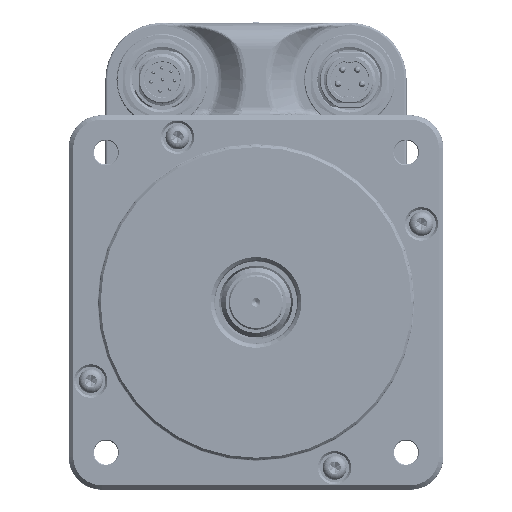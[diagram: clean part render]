
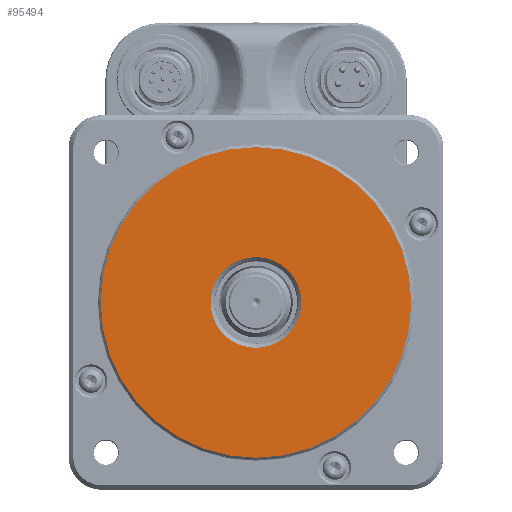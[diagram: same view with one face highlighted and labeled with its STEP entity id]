
A CAD part, top view. The second image highlights one B-rep face of the part: STEP entity #95494.
In plain terms, the highlighted planar face has unit normal (0, 0, 1).
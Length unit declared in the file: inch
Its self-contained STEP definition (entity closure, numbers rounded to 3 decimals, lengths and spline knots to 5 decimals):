
#30211 = CARTESIAN_POINT ( 'NONE',  ( 0., 0., -1.0676 ) ) ;
#36174 = VERTEX_POINT ( 'NONE', #443593 ) ;
#95494 = ADVANCED_FACE ( 'NONE', ( #520588, #190200 ), #181650, .T. ) ;
#96674 = CIRCLE ( 'NONE', #582957, 1.41781 ) ;
#116328 = DIRECTION ( 'NONE',  ( 0., 1., 0. ) ) ;
#120094 = CIRCLE ( 'NONE', #439110, 0.41437 ) ;
#140392 = EDGE_CURVE ( 'NONE', #36174, #284089, #96674, .T. ) ;
#181034 = CIRCLE ( 'NONE', #806309, 1.41781 ) ;
#181650 = PLANE ( 'NONE',  #582693 ) ;
#190200 = FACE_OUTER_BOUND ( 'NONE', #698305, .T. ) ;
#209469 = ORIENTED_EDGE ( 'NONE', *, *, #558093, .T. ) ;
#220018 = ORIENTED_EDGE ( 'NONE', *, *, #608577, .T. ) ;
#272441 = DIRECTION ( 'NONE',  ( 0., 0., -1. ) ) ;
#284089 = VERTEX_POINT ( 'NONE', #540871 ) ;
#287322 = AXIS2_PLACEMENT_3D ( 'NONE', #774575, #387278, #521985 ) ;
#328712 = ORIENTED_EDGE ( 'NONE', *, *, #690836, .T. ) ;
#369217 = DIRECTION ( 'NONE',  ( 0., 0., 1. ) ) ;
#387278 = DIRECTION ( 'NONE',  ( 0., 0., -1. ) ) ;
#402477 = CARTESIAN_POINT ( 'NONE',  ( 0., 0.41437, -1.0676 ) ) ;
#430886 = CARTESIAN_POINT ( 'NONE',  ( 0., 0., -1.0676 ) ) ;
#434385 = DIRECTION ( 'NONE',  ( 0., 1., 0. ) ) ;
#439110 = AXIS2_PLACEMENT_3D ( 'NONE', #676934, #272441, #811618 ) ;
#443593 = CARTESIAN_POINT ( 'NONE',  ( 0., -1.41781, -1.0676 ) ) ;
#446752 = CARTESIAN_POINT ( 'NONE',  ( 0., 0., -1.0676 ) ) ;
#453845 = CARTESIAN_POINT ( 'NONE',  ( 0., -0.41437, -1.0676 ) ) ;
#520588 = FACE_BOUND ( 'NONE', #707688, .T. ) ;
#521985 = DIRECTION ( 'NONE',  ( 0., 1., 0. ) ) ;
#540871 = CARTESIAN_POINT ( 'NONE',  ( 0., 1.41781, -1.0676 ) ) ;
#558093 = EDGE_CURVE ( 'NONE', #284089, #36174, #181034, .T. ) ;
#564698 = CIRCLE ( 'NONE', #287322, 0.41437 ) ;
#582693 = AXIS2_PLACEMENT_3D ( 'NONE', #446752, #712382, #116328 ) ;
#582957 = AXIS2_PLACEMENT_3D ( 'NONE', #430886, #626872, #692139 ) ;
#608577 = EDGE_CURVE ( 'NONE', #741713, #712066, #120094, .T. ) ;
#626872 = DIRECTION ( 'NONE',  ( 0., 0., 1. ) ) ;
#660330 = ORIENTED_EDGE ( 'NONE', *, *, #140392, .T. ) ;
#676934 = CARTESIAN_POINT ( 'NONE',  ( 0., 0., -1.0676 ) ) ;
#690836 = EDGE_CURVE ( 'NONE', #712066, #741713, #564698, .T. ) ;
#692139 = DIRECTION ( 'NONE',  ( 0., 1., 0. ) ) ;
#698305 = EDGE_LOOP ( 'NONE', ( #660330, #209469 ) ) ;
#707688 = EDGE_LOOP ( 'NONE', ( #328712, #220018 ) ) ;
#712066 = VERTEX_POINT ( 'NONE', #402477 ) ;
#712382 = DIRECTION ( 'NONE',  ( 0., 0., 1. ) ) ;
#741713 = VERTEX_POINT ( 'NONE', #453845 ) ;
#774575 = CARTESIAN_POINT ( 'NONE',  ( 0., 0., -1.0676 ) ) ;
#806309 = AXIS2_PLACEMENT_3D ( 'NONE', #30211, #369217, #434385 ) ;
#811618 = DIRECTION ( 'NONE',  ( 0., 1., 0. ) ) ;
